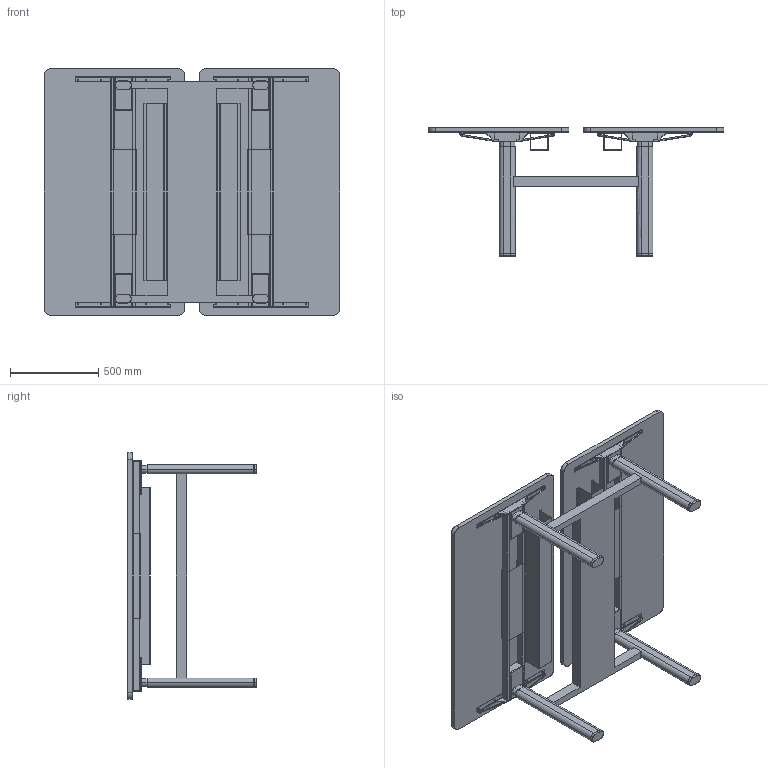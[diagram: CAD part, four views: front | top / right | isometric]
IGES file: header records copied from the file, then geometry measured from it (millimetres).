
Start section: SolidWorks IGES file using analytic representation for surfaces
Global section: file name: C:\Users\simone.cerana\OneDrive - Gruppo Tecno\Desktop\CHINA\DISEGNI DI SERIE\ASSIEMI LISTINO\AXIS LISTINO\FULL OPT\AX1416FO.IGS; native system: SolidWorks 2024; preprocessor: SolidWorks 2024; author: simone.cerana; date: 260512.105859; units: millimetre
Bounding box: 1680 x 730.09 x 1400 mm (x, y, z)
Surface area: 8834292.9 mm2 (no closed solid volume)
Topology: 0 solids, 0 shells, 626 faces, 6976 edges, 6968 vertices
Faces by surface type: bspline 338, revolution 288
